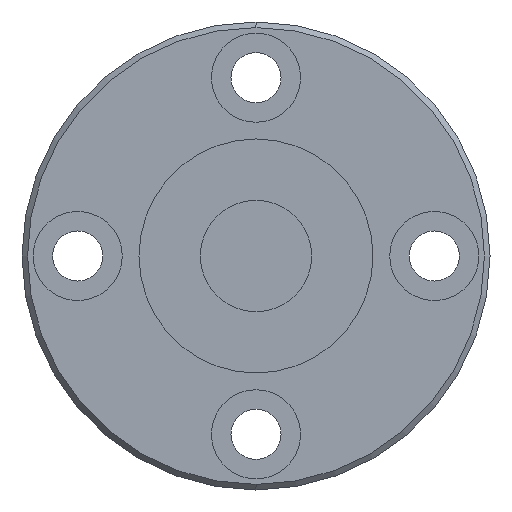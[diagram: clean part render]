
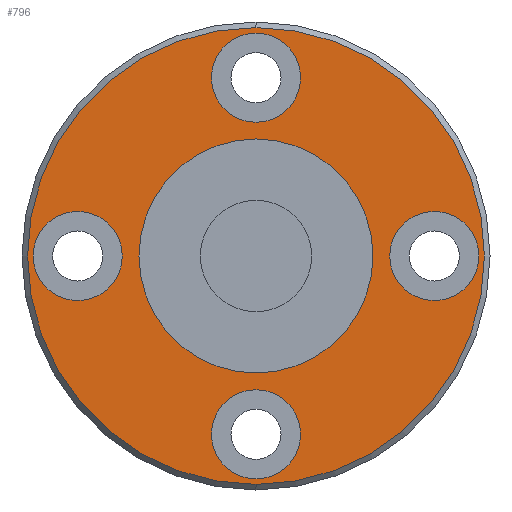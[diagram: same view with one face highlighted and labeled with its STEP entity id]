
A CAD part, left-side view. The second image highlights one B-rep face of the part: STEP entity #796.
In plain terms, the highlighted planar face has unit normal (-1, 0, 0).
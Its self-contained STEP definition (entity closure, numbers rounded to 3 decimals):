
#2 = DIRECTION ( 'NONE',  ( -1., 0., 0. ) ) ;
#8 = DIRECTION ( 'NONE',  ( -1., 0., 0. ) ) ;
#28 = CARTESIAN_POINT ( 'NONE',  ( 0., 0., 0. ) ) ;
#56 = AXIS2_PLACEMENT_3D ( 'NONE', #681, #2407, #2188 ) ;
#58 = CARTESIAN_POINT ( 'NONE',  ( 0., -16., -4. ) ) ;
#88 = FACE_BOUND ( 'NONE', #1957, .T. ) ;
#101 = FACE_BOUND ( 'NONE', #1285, .T. ) ;
#114 = CIRCLE ( 'NONE', #1543, 4. ) ;
#124 = CARTESIAN_POINT ( 'NONE',  ( 0., 0., -16. ) ) ;
#175 = DIRECTION ( 'NONE',  ( -1., 0., 0. ) ) ;
#183 = CIRCLE ( 'NONE', #1754, 4. ) ;
#200 = CARTESIAN_POINT ( 'NONE',  ( 0., 0., 16. ) ) ;
#203 = EDGE_LOOP ( 'NONE', ( #2420, #420 ) ) ;
#204 = CARTESIAN_POINT ( 'NONE',  ( 0., 16., -4. ) ) ;
#225 = EDGE_CURVE ( 'NONE', #518, #1870, #1264, .T. ) ;
#245 = DIRECTION ( 'NONE',  ( 0., 0., -1. ) ) ;
#250 = EDGE_CURVE ( 'NONE', #2266, #1172, #1352, .T. ) ;
#293 = EDGE_CURVE ( 'NONE', #1634, #1510, #2419, .T. ) ;
#295 = DIRECTION ( 'NONE',  ( -1., 0., 0. ) ) ;
#336 = CIRCLE ( 'NONE', #1786, 4. ) ;
#350 = ORIENTED_EDGE ( 'NONE', *, *, #225, .F. ) ;
#355 = AXIS2_PLACEMENT_3D ( 'NONE', #996, #1783, #1198 ) ;
#388 = VERTEX_POINT ( 'NONE', #1218 ) ;
#420 = ORIENTED_EDGE ( 'NONE', *, *, #636, .F. ) ;
#432 = PLANE ( 'NONE',  #861 ) ;
#460 = EDGE_LOOP ( 'NONE', ( #936, #2110 ) ) ;
#467 = CIRCLE ( 'NONE', #355, 4. ) ;
#475 = CIRCLE ( 'NONE', #1855, 4. ) ;
#514 = ORIENTED_EDGE ( 'NONE', *, *, #1143, .F. ) ;
#518 = VERTEX_POINT ( 'NONE', #1256 ) ;
#561 = CARTESIAN_POINT ( 'NONE',  ( 0., 0., 16. ) ) ;
#615 = AXIS2_PLACEMENT_3D ( 'NONE', #749, #2404, #1280 ) ;
#622 = ORIENTED_EDGE ( 'NONE', *, *, #1037, .F. ) ;
#626 = EDGE_CURVE ( 'NONE', #1757, #1785, #114, .T. ) ;
#636 = EDGE_CURVE ( 'NONE', #2432, #1260, #475, .T. ) ;
#666 = EDGE_CURVE ( 'NONE', #1260, #2432, #183, .T. ) ;
#669 = DIRECTION ( 'NONE',  ( 1., 0., 0. ) ) ;
#671 = AXIS2_PLACEMENT_3D ( 'NONE', #1485, #175, #933 ) ;
#681 = CARTESIAN_POINT ( 'NONE',  ( 0., -16., 0. ) ) ;
#723 = AXIS2_PLACEMENT_3D ( 'NONE', #1860, #2435, #739 ) ;
#739 = DIRECTION ( 'NONE',  ( 0., 0., 1. ) ) ;
#749 = CARTESIAN_POINT ( 'NONE',  ( 0., 0., 0. ) ) ;
#774 = CARTESIAN_POINT ( 'NONE',  ( 0., 0., 20.5 ) ) ;
#796 = ADVANCED_FACE ( 'NONE', ( #1419, #101, #88, #1607, #2368, #875 ), #432, .F. ) ;
#841 = CARTESIAN_POINT ( 'NONE',  ( 0., -16., 4. ) ) ;
#849 = CARTESIAN_POINT ( 'NONE',  ( 0., 0., 0. ) ) ;
#861 = AXIS2_PLACEMENT_3D ( 'NONE', #1188, #669, #245 ) ;
#867 = CARTESIAN_POINT ( 'NONE',  ( 0., -16., 0. ) ) ;
#875 = FACE_BOUND ( 'NONE', #2349, .T. ) ;
#893 = DIRECTION ( 'NONE',  ( 0., 1., 0. ) ) ;
#933 = DIRECTION ( 'NONE',  ( 0., 0., 1. ) ) ;
#936 = ORIENTED_EDGE ( 'NONE', *, *, #293, .T. ) ;
#971 = CIRCLE ( 'NONE', #615, 10.5 ) ;
#981 = EDGE_LOOP ( 'NONE', ( #350, #987 ) ) ;
#987 = ORIENTED_EDGE ( 'NONE', *, *, #2396, .F. ) ;
#996 = CARTESIAN_POINT ( 'NONE',  ( 0., 16., 0. ) ) ;
#1011 = DIRECTION ( 'NONE',  ( -1., 0., 0. ) ) ;
#1014 = DIRECTION ( 'NONE',  ( 0., 0., -1. ) ) ;
#1037 = EDGE_CURVE ( 'NONE', #1172, #2266, #971, .T. ) ;
#1055 = CIRCLE ( 'NONE', #1690, 4. ) ;
#1091 = ORIENTED_EDGE ( 'NONE', *, *, #1321, .F. ) ;
#1094 = VERTEX_POINT ( 'NONE', #2217 ) ;
#1143 = EDGE_CURVE ( 'NONE', #1094, #388, #336, .T. ) ;
#1172 = VERTEX_POINT ( 'NONE', #1506 ) ;
#1188 = CARTESIAN_POINT ( 'NONE',  ( 0., 21., 0. ) ) ;
#1198 = DIRECTION ( 'NONE',  ( 0., 0., 1. ) ) ;
#1218 = CARTESIAN_POINT ( 'NONE',  ( 0., 0., 20. ) ) ;
#1256 = CARTESIAN_POINT ( 'NONE',  ( 0., 16., 4. ) ) ;
#1260 = VERTEX_POINT ( 'NONE', #1350 ) ;
#1264 = CIRCLE ( 'NONE', #723, 4. ) ;
#1280 = DIRECTION ( 'NONE',  ( 0., 0., 1. ) ) ;
#1285 = EDGE_LOOP ( 'NONE', ( #2053, #514 ) ) ;
#1321 = EDGE_CURVE ( 'NONE', #1785, #1757, #2405, .T. ) ;
#1323 = ORIENTED_EDGE ( 'NONE', *, *, #250, .F. ) ;
#1343 = CARTESIAN_POINT ( 'NONE',  ( 0., 0., -10.5 ) ) ;
#1350 = CARTESIAN_POINT ( 'NONE',  ( 0., 0., -12. ) ) ;
#1352 = CIRCLE ( 'NONE', #671, 10.5 ) ;
#1361 = DIRECTION ( 'NONE',  ( 0., 0., -1. ) ) ;
#1419 = FACE_OUTER_BOUND ( 'NONE', #460, .T. ) ;
#1437 = EDGE_CURVE ( 'NONE', #1510, #1634, #1563, .T. ) ;
#1485 = CARTESIAN_POINT ( 'NONE',  ( 0., 0., 0. ) ) ;
#1506 = CARTESIAN_POINT ( 'NONE',  ( 0., 0., 10.5 ) ) ;
#1510 = VERTEX_POINT ( 'NONE', #774 ) ;
#1523 = DIRECTION ( 'NONE',  ( 0., -1., 0. ) ) ;
#1543 = AXIS2_PLACEMENT_3D ( 'NONE', #867, #2373, #1983 ) ;
#1563 = CIRCLE ( 'NONE', #1795, 20.5 ) ;
#1606 = ORIENTED_EDGE ( 'NONE', *, *, #626, .F. ) ;
#1607 = FACE_BOUND ( 'NONE', #203, .T. ) ;
#1634 = VERTEX_POINT ( 'NONE', #1864 ) ;
#1690 = AXIS2_PLACEMENT_3D ( 'NONE', #200, #8, #1523 ) ;
#1691 = DIRECTION ( 'NONE',  ( 0., -1., 0. ) ) ;
#1753 = DIRECTION ( 'NONE',  ( -1., 0., 0. ) ) ;
#1754 = AXIS2_PLACEMENT_3D ( 'NONE', #2341, #1011, #1927 ) ;
#1757 = VERTEX_POINT ( 'NONE', #58 ) ;
#1775 = CARTESIAN_POINT ( 'NONE',  ( 0., 0., -20. ) ) ;
#1783 = DIRECTION ( 'NONE',  ( -1., 0., 0. ) ) ;
#1785 = VERTEX_POINT ( 'NONE', #841 ) ;
#1786 = AXIS2_PLACEMENT_3D ( 'NONE', #561, #2, #1691 ) ;
#1795 = AXIS2_PLACEMENT_3D ( 'NONE', #849, #1753, #1014 ) ;
#1855 = AXIS2_PLACEMENT_3D ( 'NONE', #124, #295, #893 ) ;
#1860 = CARTESIAN_POINT ( 'NONE',  ( 0., 16., 0. ) ) ;
#1864 = CARTESIAN_POINT ( 'NONE',  ( 0., 0., -20.5 ) ) ;
#1870 = VERTEX_POINT ( 'NONE', #204 ) ;
#1927 = DIRECTION ( 'NONE',  ( 0., 1., 0. ) ) ;
#1957 = EDGE_LOOP ( 'NONE', ( #1091, #1606 ) ) ;
#1983 = DIRECTION ( 'NONE',  ( 0., 0., -1. ) ) ;
#2053 = ORIENTED_EDGE ( 'NONE', *, *, #2344, .F. ) ;
#2110 = ORIENTED_EDGE ( 'NONE', *, *, #1437, .T. ) ;
#2188 = DIRECTION ( 'NONE',  ( 0., 0., -1. ) ) ;
#2217 = CARTESIAN_POINT ( 'NONE',  ( 0., 0., 12. ) ) ;
#2266 = VERTEX_POINT ( 'NONE', #1343 ) ;
#2305 = DIRECTION ( 'NONE',  ( -1., 0., 0. ) ) ;
#2341 = CARTESIAN_POINT ( 'NONE',  ( 0., 0., -16. ) ) ;
#2344 = EDGE_CURVE ( 'NONE', #388, #1094, #1055, .T. ) ;
#2349 = EDGE_LOOP ( 'NONE', ( #622, #1323 ) ) ;
#2368 = FACE_BOUND ( 'NONE', #981, .T. ) ;
#2373 = DIRECTION ( 'NONE',  ( -1., 0., 0. ) ) ;
#2377 = AXIS2_PLACEMENT_3D ( 'NONE', #28, #2305, #1361 ) ;
#2396 = EDGE_CURVE ( 'NONE', #1870, #518, #467, .T. ) ;
#2404 = DIRECTION ( 'NONE',  ( -1., 0., 0. ) ) ;
#2405 = CIRCLE ( 'NONE', #56, 4. ) ;
#2407 = DIRECTION ( 'NONE',  ( -1., 0., 0. ) ) ;
#2419 = CIRCLE ( 'NONE', #2377, 20.5 ) ;
#2420 = ORIENTED_EDGE ( 'NONE', *, *, #666, .F. ) ;
#2432 = VERTEX_POINT ( 'NONE', #1775 ) ;
#2435 = DIRECTION ( 'NONE',  ( -1., 0., 0. ) ) ;
